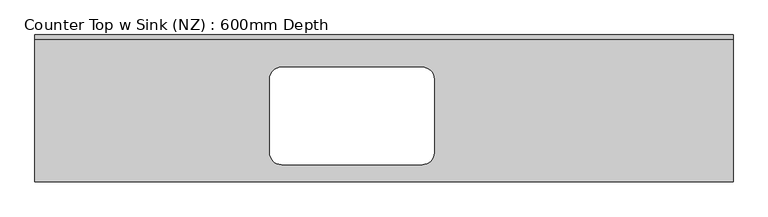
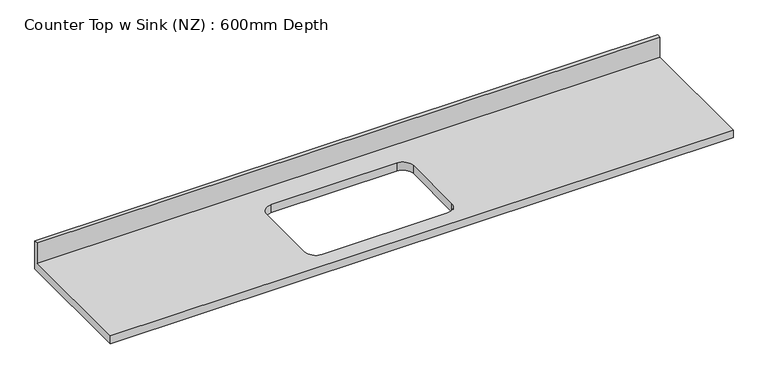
"""IFC4 building model written with IfcOpenShell, lengths in millimetres: furniture geometry, Counter Top w Sink (NZ) : 600mm Depth."""

from ifc_helpers import new_model, si_unit, frame, origin, place, context, project, spatial, polyline, circle_curve, source, transform, mapped, element, save
from ifc_brep_helpers import plane_surface, revolved_surface, advanced_brep


def counter_top_w_sink_nz_600mm_depth_6aa80716(model_context):
    return source(origin(), model_context, "Body", "AdvancedBrep", [
        advanced_brep(
        [(-1200.4622951, -625.0, 900.0), (1774.5377049, -625.0, 900.0), (1774.5377049, -19.05, 900.0), (-1200.4622951, -19.05, 900.0), (-149.4622951, -137.3, 900.0), (449.3377049, -137.3, 900.0), (500.1377049, -188.1, 900.0), (500.1377049, -501.9, 900.0), (449.3377049, -552.7, 900.0), (-149.4622951, -552.7, 900.0), (-200.2622951, -501.9, 900.0), (-200.2622951, -188.1, 900.0), (1774.5377049, 0.0, 860.0), (1774.5377049, -625.0, 860.0), (-1200.4622951, -625.0, 860.0), (-1200.4622951, 0.0, 860.0), (449.3377049, -137.3, 860.0), (-149.4622951, -137.3, 860.0), (-200.2622951, -188.1, 860.0), (-200.2622951, -501.9, 860.0), (-149.4622951, -552.7, 860.0), (449.3377049, -552.7, 860.0), (500.1377049, -501.9, 860.0), (500.1377049, -188.1, 860.0), (-1200.4622951, 0.0, 1001.6), (1774.5377049, 0.0, 1001.6), (-1200.4622951, -19.05, 1001.6), (1774.5377049, -19.05, 1001.6)],
        [
            (0, 1),
            (1, 2),
            (2, 3),
            (3, 0),
            (4, 5),
            (5, 6, circle_curve(frame((449.3377049, -188.1, 900.0), z_axis=(0.0, 0.0, -1.0), x_axis=(1.0, 0.0, 0.0)), 50.8)),
            (6, 7),
            (7, 8, circle_curve(frame((449.3377049, -501.9, 900.0), z_axis=(0.0, 0.0, -1.0), x_axis=(1.0, 0.0, 0.0)), 50.8)),
            (8, 9),
            (9, 10, circle_curve(frame((-149.4622951, -501.9, 900.0), z_axis=(0.0, 0.0, -1.0), x_axis=(1.0, 0.0, 0.0)), 50.8)),
            (10, 11),
            (11, 4, circle_curve(frame((-149.4622951, -188.1, 900.0), z_axis=(0.0, 0.0, -1.0), x_axis=(1.0, 0.0, 0.0)), 50.8)),
            (12, 13),
            (13, 14),
            (14, 15),
            (15, 12),
            (16, 17),
            (17, 18, circle_curve(frame((-149.4622951, -188.1, 860.0), z_axis=(0.0, 0.0, 1.0), x_axis=(1.0, 0.0, 0.0)), 50.8)),
            (18, 19),
            (19, 20, circle_curve(frame((-149.4622951, -501.9, 860.0), z_axis=(0.0, 0.0, 1.0), x_axis=(1.0, 0.0, 0.0)), 50.8)),
            (20, 21),
            (21, 22, circle_curve(frame((449.3377049, -501.9, 860.0), z_axis=(0.0, 0.0, 1.0), x_axis=(1.0, 0.0, 0.0)), 50.8)),
            (22, 23),
            (23, 16, circle_curve(frame((449.3377049, -188.1, 860.0), z_axis=(0.0, 0.0, 1.0), x_axis=(1.0, 0.0, 0.0)), 50.8)),
            (15, 24),
            (24, 25),
            (25, 12),
            (14, 0),
            (3, 26),
            (26, 24),
            (13, 1),
            (25, 27),
            (27, 2),
            (26, 27),
            (4, 17),
            (16, 5),
            (11, 18),
            (10, 19),
            (9, 20),
            (8, 21),
            (7, 22),
            (6, 23),
        ],
        [
            plane_surface(frame((-1200.4622951, 0.0, 900.0), z_axis=(0.0, 0.0, 1.0), x_axis=(-1.0, 0.0, 0.0))),
            plane_surface(frame((-1200.4622951, 0.0, 860.0), z_axis=(0.0, 0.0, -1.0), x_axis=(1.0, 0.0, 0.0))),
            plane_surface(frame((1774.5377049, 0.0, 900.0), z_axis=(0.0, 1.0, 0.0), x_axis=(0.0, 0.0, -1.0))),
            plane_surface(frame((-1200.4622951, 0.0, 900.0), z_axis=(-1.0, 0.0, 0.0), x_axis=(0.0, 0.0, -1.0))),
            plane_surface(frame((-1200.4622951, -625.0, 900.0), z_axis=(0.0, -1.0, 0.0), x_axis=(0.0, 0.0, -1.0))),
            plane_surface(frame((1774.5377049, -625.0, 900.0), z_axis=(1.0, 0.0, 0.0), x_axis=(0.0, 0.0, -1.0))),
            plane_surface(frame((-1200.4622951, 0.0, 1001.6), z_axis=(0.0, 0.0, 1.0), x_axis=(0.0, -1.0, 0.0))),
            plane_surface(frame((-1200.4622951, -19.05, 1001.6), z_axis=(0.0, -1.0, 0.0), x_axis=(0.0, 0.0, -1.0))),
            plane_surface(frame((449.3377049, -137.3, 900.0), z_axis=(0.0, -1.0, 0.0), x_axis=(0.0, 0.0, -1.0))),
            revolved_surface(polyline([(-98.66229510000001, -188.1, 900.0), (-98.66229510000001, -188.1, 860.0)]), (-149.4622951, -188.1, 860.0), (0.0, 0.0, 1.0)),
            plane_surface(frame((-200.2622951, -188.1, 900.0), z_axis=(1.0, 0.0, 0.0), x_axis=(0.0, 0.0, -1.0))),
            revolved_surface(polyline([(-98.66229510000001, -501.9, 900.0), (-98.66229510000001, -501.9, 860.0)]), (-149.4622951, -501.9, 860.0), (0.0, 0.0, 1.0)),
            plane_surface(frame((-149.4622951, -552.7, 900.0), z_axis=(0.0, 1.0, 0.0), x_axis=(0.0, 0.0, -1.0))),
            revolved_surface(polyline([(500.1377049, -501.9, 900.0), (500.1377049, -501.9, 860.0)]), (449.3377049, -501.9, 860.0), (0.0, 0.0, 1.0)),
            plane_surface(frame((500.1377049, -501.9, 900.0), z_axis=(-1.0, 0.0, 0.0), x_axis=(0.0, 0.0, -1.0))),
            revolved_surface(polyline([(500.1377049, -188.1, 900.0), (500.1377049, -188.1, 860.0)]), (449.3377049, -188.1, 860.0), (0.0, 0.0, 1.0)),
        ],
        [
            (0, [[1, 2, 3, 4], [5, 6, 7, 8, 9, 10, 11, 12]]),
            (1, [[13, 14, 15, 16], [17, 18, 19, 20, 21, 22, 23, 24]]),
            (2, [[-16, 25, 26, 27]]),
            (3, [[-15, 28, -4, 29, 30, -25]]),
            (4, [[-1, -28, -14, 31]]),
            (5, [[-13, -27, 32, 33, -2, -31]]),
            (6, [[-30, 34, -32, -26]]),
            (7, [[-34, -29, -3, -33]]),
            (8, [[35, -17, 36, -5]]),
            (9, [[-35, -12, 37, -18]]),
            (10, [[-37, -11, 38, -19]]),
            (11, [[-38, -10, 39, -20]]),
            (12, [[-39, -9, 40, -21]]),
            (13, [[-40, -8, 41, -22]]),
            (14, [[-41, -7, 42, -23]]),
            (15, [[-36, -24, -42, -6]]),
        ],
    ),
    ])


if __name__ == "__main__":
    model = new_model("IFC4")
    model_context = context("Model", 3, world=origin())
    ifc_project = project(units=[si_unit("LENGTHUNIT", "METRE", prefix="MILLI")], contexts=[model_context])
    site = spatial("IfcSite", under=ifc_project)
    building = spatial("IfcBuilding", under=site)
    placement = place(None, origin())
    counter_top_w_sink_nz_600mm_depth_shape = counter_top_w_sink_nz_600mm_depth_6aa80716(model_context)
    element("IfcFurniture", 1, ObjectType="Counter Top w Sink (NZ) : 600mm Depth", at=placement, inside=building, context=model_context, shape_type="MappedRepresentation", body=[
        mapped(counter_top_w_sink_nz_600mm_depth_shape, transform((0.0, 0.0, 0.0), x_axis=(1.0, 0.0, 0.0), y_axis=(0.0, 1.0, 0.0), z_axis=(0.0, 0.0, 1.0))),
    ])
    save(model, "model.ifc")
